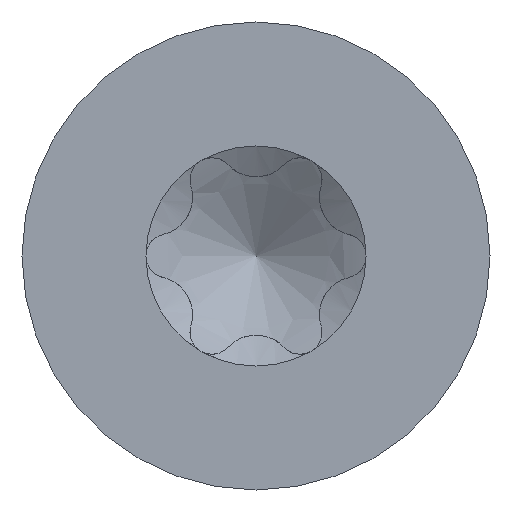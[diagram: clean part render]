
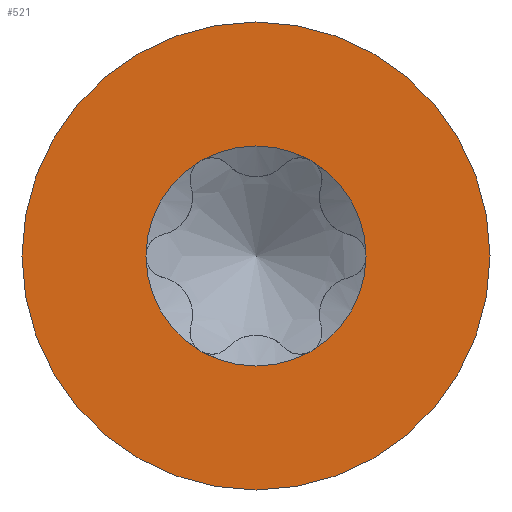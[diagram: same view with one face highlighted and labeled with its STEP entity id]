
A CAD part, left-side view. The second image highlights one B-rep face of the part: STEP entity #521.
In plain terms, the highlighted planar face has unit normal (-1, 0, 0).
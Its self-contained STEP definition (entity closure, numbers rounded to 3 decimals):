
#19=FACE_BOUND('',#132,.T.);
#27=PLANE('',#577);
#96=FACE_OUTER_BOUND('',#131,.T.);
#131=EDGE_LOOP('',(#475));
#132=EDGE_LOOP('',(#476,#477,#478,#479,#480,#481));
#133=CIRCLE('',#525,1.975);
#134=CIRCLE('',#527,1.975);
#135=CIRCLE('',#529,1.975);
#136=CIRCLE('',#531,1.975);
#137=CIRCLE('',#533,1.975);
#138=CIRCLE('',#535,1.975);
#152=CIRCLE('',#569,4.2);
#198=VERTEX_POINT('',#702);
#201=VERTEX_POINT('',#727);
#202=VERTEX_POINT('',#738);
#205=VERTEX_POINT('',#773);
#209=VERTEX_POINT('',#817);
#212=VERTEX_POINT('',#852);
#247=VERTEX_POINT('',#1179);
#254=EDGE_CURVE('',#198,#201,#133,.T.);
#258=EDGE_CURVE('',#202,#198,#134,.T.);
#262=EDGE_CURVE('',#205,#202,#135,.T.);
#264=EDGE_CURVE('',#209,#205,#136,.T.);
#268=EDGE_CURVE('',#212,#209,#137,.T.);
#272=EDGE_CURVE('',#201,#212,#138,.T.);
#324=EDGE_CURVE('',#247,#247,#152,.T.);
#475=ORIENTED_EDGE('',*,*,#324,.F.);
#476=ORIENTED_EDGE('',*,*,#272,.T.);
#477=ORIENTED_EDGE('',*,*,#268,.T.);
#478=ORIENTED_EDGE('',*,*,#264,.T.);
#479=ORIENTED_EDGE('',*,*,#262,.T.);
#480=ORIENTED_EDGE('',*,*,#258,.T.);
#481=ORIENTED_EDGE('',*,*,#254,.T.);
#521=ADVANCED_FACE('',(#96,#19),#27,.T.);
#525=AXIS2_PLACEMENT_3D('',#736,#582,#583);
#527=AXIS2_PLACEMENT_3D('',#771,#586,#587);
#529=AXIS2_PLACEMENT_3D('',#806,#590,#591);
#531=AXIS2_PLACEMENT_3D('',#818,#594,#595);
#533=AXIS2_PLACEMENT_3D('',#853,#598,#599);
#535=AXIS2_PLACEMENT_3D('',#887,#602,#603);
#569=AXIS2_PLACEMENT_3D('',#1180,#682,#683);
#577=AXIS2_PLACEMENT_3D('',#1191,#698,#699);
#582=DIRECTION('center_axis',(1.,0.,0.));
#583=DIRECTION('ref_axis',(0.,1.,0.));
#586=DIRECTION('center_axis',(1.,0.,0.));
#587=DIRECTION('ref_axis',(0.,1.,0.));
#590=DIRECTION('center_axis',(1.,0.,0.));
#591=DIRECTION('ref_axis',(0.,1.,0.));
#594=DIRECTION('center_axis',(1.,0.,0.));
#595=DIRECTION('ref_axis',(0.,1.,0.));
#598=DIRECTION('center_axis',(1.,0.,0.));
#599=DIRECTION('ref_axis',(0.,1.,0.));
#602=DIRECTION('center_axis',(1.,0.,0.));
#603=DIRECTION('ref_axis',(0.,1.,0.));
#682=DIRECTION('center_axis',(1.,0.,0.));
#683=DIRECTION('ref_axis',(0.,0.,-1.));
#698=DIRECTION('center_axis',(-1.,0.,0.));
#699=DIRECTION('ref_axis',(0.,0.,1.));
#702=CARTESIAN_POINT('',(0.,1.975,0.));
#727=CARTESIAN_POINT('',(0.,0.988,1.71));
#736=CARTESIAN_POINT('Origin',(0.,0.,0.));
#738=CARTESIAN_POINT('',(0.,0.988,-1.71));
#771=CARTESIAN_POINT('Origin',(0.,0.,0.));
#773=CARTESIAN_POINT('',(0.,-0.988,-1.71));
#806=CARTESIAN_POINT('Origin',(0.,0.,0.));
#817=CARTESIAN_POINT('',(0.,-1.975,0.));
#818=CARTESIAN_POINT('Origin',(0.,0.,0.));
#852=CARTESIAN_POINT('',(0.,-0.988,1.71));
#853=CARTESIAN_POINT('Origin',(0.,0.,0.));
#887=CARTESIAN_POINT('Origin',(0.,0.,0.));
#1179=CARTESIAN_POINT('',(0.,4.2,0.));
#1180=CARTESIAN_POINT('Origin',(0.,0.,0.));
#1191=CARTESIAN_POINT('Origin',(0.,4.2,0.));
